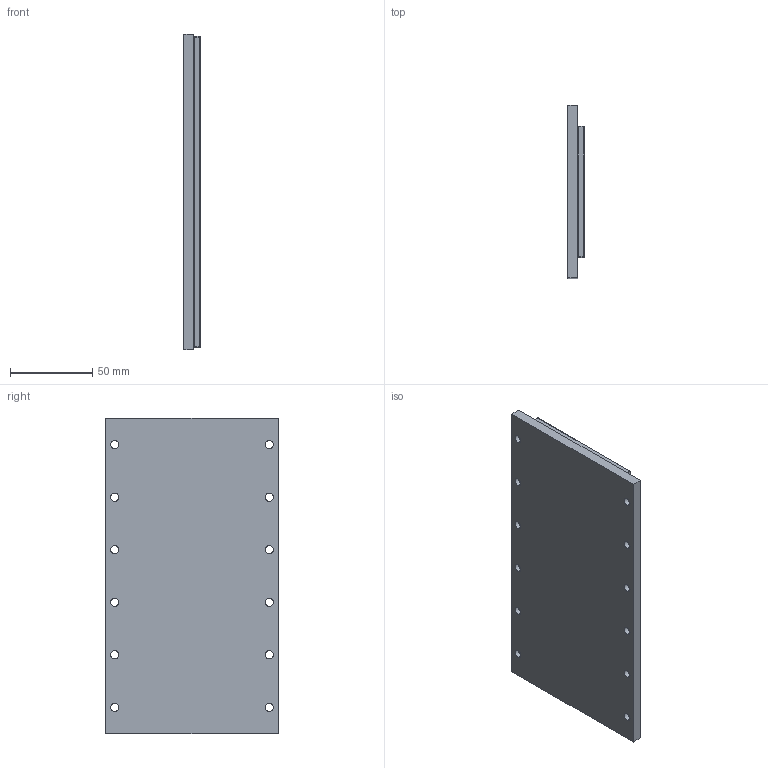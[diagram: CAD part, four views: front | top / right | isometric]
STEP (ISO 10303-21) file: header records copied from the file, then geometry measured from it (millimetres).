
FILE_DESCRIPTION (( 'STEP AP214' ), '1' );
FILE_NAME ('PIXM080-TL192-NC.STEP', '2020-07-30T01:56:46', ( '' ), ( '' ), 'SwSTEP 2.0', 'SolidWorks 2016', '' );
FILE_SCHEMA (( 'AUTOMOTIVE_DESIGN' ));
Length unit declared in the file: inch
Products named in the file (3): 001SM080000001-CUSTOMER_TL192; PIXM080-TL192-NC; 001SM080LXXX01_TL192
Assembly tree (2 placements, depth 2):
  PIXM080-TL192-NC
    001SM080LXXX01_TL192
    001SM080000001-CUSTOMER_TL192
Bounding box: 10 x 105 x 192 mm (x, y, z)
Volume: 178791.2 mm3; surface area: 77184.6 mm2
Topology: 2 solids, 2 shells, 103 faces, 242 edges, 148 vertices
Faces by surface type: cylinder 60, plane 35, bspline 8
Entity records: 4515 total; most frequent: CARTESIAN_POINT 610, DIRECTION 554, ORIENTED_EDGE 468, EDGE_CURVE 234, AXIS2_PLACEMENT_3D 220, VERTEX_POINT 148, EDGE_LOOP 140, CIRCLE 120
